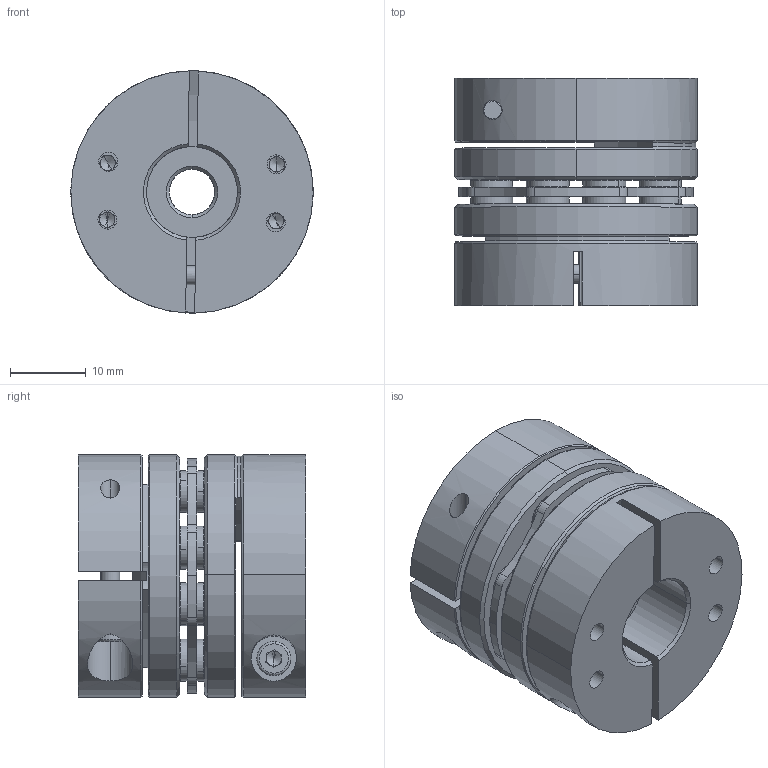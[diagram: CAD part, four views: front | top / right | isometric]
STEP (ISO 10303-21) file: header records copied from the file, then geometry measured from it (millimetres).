
FILE_DESCRIPTION (( 'STEP AP203' ), '1' );
FILE_NAME ('LDG-32-B1-6-12.STEP', '2021-10-28T05:06:22', ( '' ), ( '' ), 'SwSTEP 2.0', 'SolidWorks 2018', '' );
FILE_SCHEMA (( 'CONFIG_CONTROL_DESIGN' ));
Length unit declared in the file: millimetre
Products named in the file (2): LDG-32-B1-6-12; 錨璃5^LDG-32蚾饜芞1
Assembly tree (1 placements, depth 2):
  LDG-32-B1-6-12
    錨璃5^LDG-32蚾饜芞1
Bounding box: 32 x 30 x 32 mm (x, y, z)
Volume: 18037.3 mm3; surface area: 13234.4 mm2
Topology: 1 solids, 11 shells, 795 faces, 1967 edges, 1216 vertices
Faces by surface type: cylinder 301, plane 244, cone 230, torus 20
Entity records: 24193 total; most frequent: CARTESIAN_POINT 4474, DIRECTION 4465, ORIENTED_EDGE 3878, EDGE_CURVE 1939, AXIS2_PLACEMENT_3D 1819, VERTEX_POINT 1216, CIRCLE 1020, EDGE_LOOP 939
